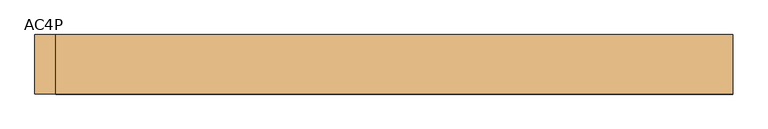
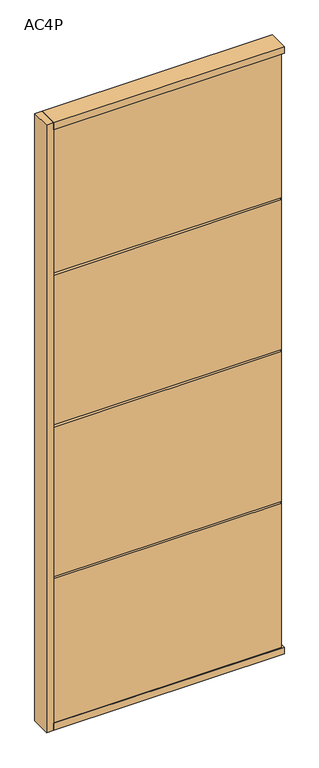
"""IFC4 building model written with IfcOpenShell, lengths in millimetres: door geometry, Mobiliário_Mobiliário de Escritório_Painel Cego - AC4P (Inicial e Final)_Marelli : AC4P."""

from ifc_helpers import new_model, si_unit, frame, origin, origin_with_axes, place, context, project, spatial, polyline, outline, extrude, source, transform, mapped, element, save


def ac4p_9f7205b8(model_context):
    return source(origin(), model_context, "Body", "SweptSolid", [
        extrude(outline(polyline([(500.0, 42.5), (500.0, -42.5), (-470.0, -42.5), (-470.0, 42.5), (500.0, 42.5)])), origin_with_axes(), (0.0, 0.0, 1.0), 30.0),
        extrude(outline(polyline([(490.0, 39.5), (490.0, 21.5), (-470.0, 21.5), (-470.0, 39.5), (490.0, 39.5)])), frame((0.0, 0.0, 30.0), z_axis=(0.0, 0.0, 1.0), x_axis=(1.0, 0.0, 0.0)), (0.0, 0.0, 1.0), 640.0),
        extrude(outline(polyline([(490.0, 21.5), (490.0, -21.5), (-470.0, -21.5), (-470.0, 21.5), (490.0, 21.5)])), frame((0.0, 0.0, 653.5), z_axis=(0.0, 0.0, 1.0), x_axis=(1.0, 0.0, 0.0)), (0.0, 0.0, 1.0), 43.0),
        extrude(outline(polyline([(490.0, -39.5), (-470.0, -39.5), (-470.0, -21.5), (490.0, -21.5), (490.0, -39.5)])), frame((0.0, 0.0, 30.0), z_axis=(0.0, 0.0, 1.0), x_axis=(1.0, 0.0, 0.0)), (0.0, 0.0, 1.0), 640.0),
        extrude(outline(polyline([(500.0, 42.5), (500.0, -42.5), (-470.0, -42.5), (-470.0, 42.5), (500.0, 42.5)])), frame((0.0, 0.0, 2670.0), z_axis=(0.0, 0.0, 1.0), x_axis=(1.0, 0.0, 0.0)), (0.0, 0.0, 1.0), 30.0),
        extrude(outline(polyline([(490.0, 39.5), (490.0, 21.5), (-470.0, 21.5), (-470.0, 39.5), (490.0, 39.5)])), frame((0.0, 0.0, 1355.0), z_axis=(0.0, 0.0, 1.0), x_axis=(1.0, 0.0, 0.0)), (0.0, 0.0, 1.0), 665.0),
        extrude(outline(polyline([(490.0, 21.5), (490.0, -21.5), (-470.0, -21.5), (-470.0, 21.5), (490.0, 21.5)])), frame((0.0, 0.0, 2003.5), z_axis=(0.0, 0.0, 1.0), x_axis=(1.0, 0.0, 0.0)), (0.0, 0.0, 1.0), 43.0),
        extrude(outline(polyline([(490.0, 21.5), (490.0, -21.5), (-470.0, -21.5), (-470.0, 21.5), (490.0, 21.5)])), frame((0.0, 0.0, 1328.5), z_axis=(0.0, 0.0, 1.0), x_axis=(1.0, 0.0, 0.0)), (0.0, 0.0, 1.0), 43.0),
        extrude(outline(polyline([(490.0, -39.5), (-470.0, -39.5), (-470.0, -21.5), (490.0, -21.5), (490.0, -39.5)])), frame((0.0, 0.0, 1355.0), z_axis=(0.0, 0.0, 1.0), x_axis=(1.0, 0.0, 0.0)), (0.0, 0.0, 1.0), 665.0),
        extrude(outline(polyline([(-500.0, -42.5), (-500.0, 42.5), (-470.0, 42.5), (-470.0, -42.5), (-500.0, -42.5)])), origin_with_axes(), (0.0, 0.0, 1.0), 2700.0),
        extrude(outline(polyline([(500.0, -21.5), (490.0, -21.5), (490.0, 21.5), (500.0, 21.5), (500.0, -21.5)])), frame((0.0, 0.0, 30.0), z_axis=(0.0, 0.0, 1.0), x_axis=(1.0, 0.0, 0.0)), (0.0, 0.0, 1.0), 2640.0),
        extrude(outline(polyline([(490.0, 39.5), (490.0, 21.5), (-470.0, 21.5), (-470.0, 39.5), (490.0, 39.5)])), frame((0.0, 0.0, 2030.0), z_axis=(0.0, 0.0, 1.0), x_axis=(1.0, 0.0, 0.0)), (0.0, 0.0, 1.0), 640.0),
        extrude(outline(polyline([(490.0, -39.5), (-470.0, -39.5), (-470.0, -21.5), (490.0, -21.5), (490.0, -39.5)])), frame((0.0, 0.0, 2030.0), z_axis=(0.0, 0.0, 1.0), x_axis=(1.0, 0.0, 0.0)), (0.0, 0.0, 1.0), 640.0),
        extrude(outline(polyline([(490.0, 39.5), (490.0, 21.5), (-470.0, 21.5), (-470.0, 39.5), (490.0, 39.5)])), frame((0.0, 0.0, 680.0), z_axis=(0.0, 0.0, 1.0), x_axis=(1.0, 0.0, 0.0)), (0.0, 0.0, 1.0), 665.0),
        extrude(outline(polyline([(490.0, -39.5), (-470.0, -39.5), (-470.0, -21.5), (490.0, -21.5), (490.0, -39.5)])), frame((0.0, 0.0, 680.0), z_axis=(0.0, 0.0, 1.0), x_axis=(1.0, 0.0, 0.0)), (0.0, 0.0, 1.0), 665.0),
    ])


if __name__ == "__main__":
    model = new_model("IFC4")
    model_context = context("Model", 3, world=origin())
    ifc_project = project(units=[si_unit("LENGTHUNIT", "METRE", prefix="MILLI")], contexts=[model_context])
    site = spatial("IfcSite", under=ifc_project)
    building = spatial("IfcBuilding", under=site)
    placement = place(None, origin())
    ac4p_shape = ac4p_9f7205b8(model_context)
    element("IfcDoor", 1, ObjectType="Mobiliário_Mobiliário de Escritório_Painel Cego - AC4P (Inicial e Final)_Marelli : AC4P", at=placement, inside=building, context=model_context, shape_type="MappedRepresentation", body=[
        mapped(ac4p_shape, transform((0.0, 0.0, 0.0), x_axis=(1.0, 0.0, 0.0), y_axis=(0.0, 1.0, 0.0), z_axis=(0.0, 0.0, 1.0))),
    ])
    save(model, "model.ifc")
